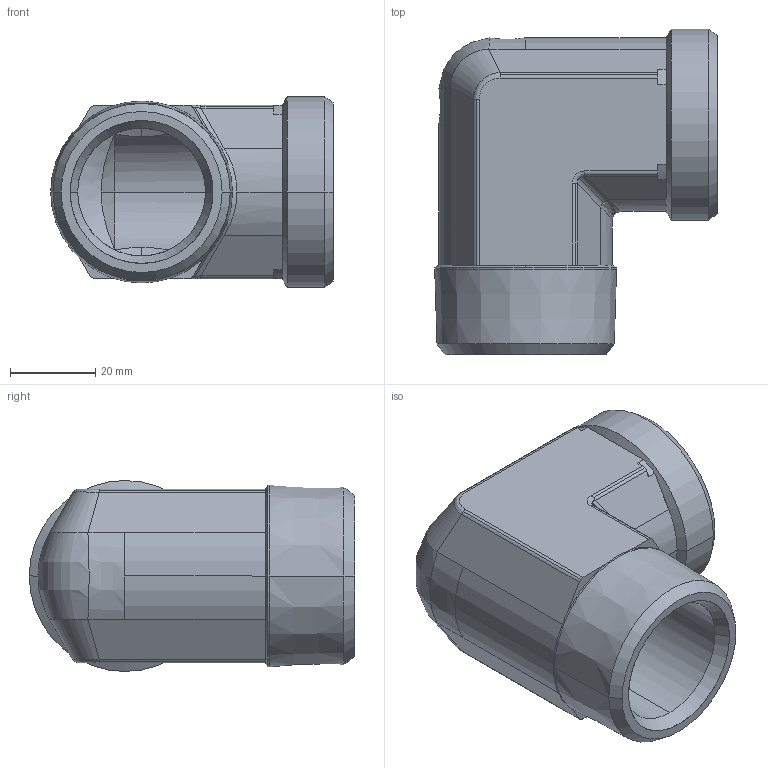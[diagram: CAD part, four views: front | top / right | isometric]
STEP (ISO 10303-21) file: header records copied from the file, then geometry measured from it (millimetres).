
FILE_DESCRIPTION((''),'2;1');
FILE_NAME('102012.stp','2007-10-30T16:28:35',(''),(''),'AutoCAD STEP 2000i','AutoCAD 2000i',', , ');
FILE_SCHEMA(('CONFIG_CONTROL_DESIGN'));
Length unit declared in the file: millimetre
Products named in the file (2): 102012.0; 3090#0
Assembly tree (1 placements, depth 2):
  102012.0
    3090#0
Bounding box: 66.35 x 76.41 x 44.82 mm (x, y, z)
Volume: 65787 mm3; surface area: 24003.3 mm2
Topology: 1 solids, 1 shells, 114 faces, 266 edges, 155 vertices
Faces by surface type: cylinder 48, plane 29, cone 23, bspline 14
Entity records: 4225 total; most frequent: CARTESIAN_POINT 1506, DIRECTION 586, ORIENTED_EDGE 532, EDGE_CURVE 266, AXIS2_PLACEMENT_3D 239, VERTEX_POINT 155, CIRCLE 119, EDGE_LOOP 117
